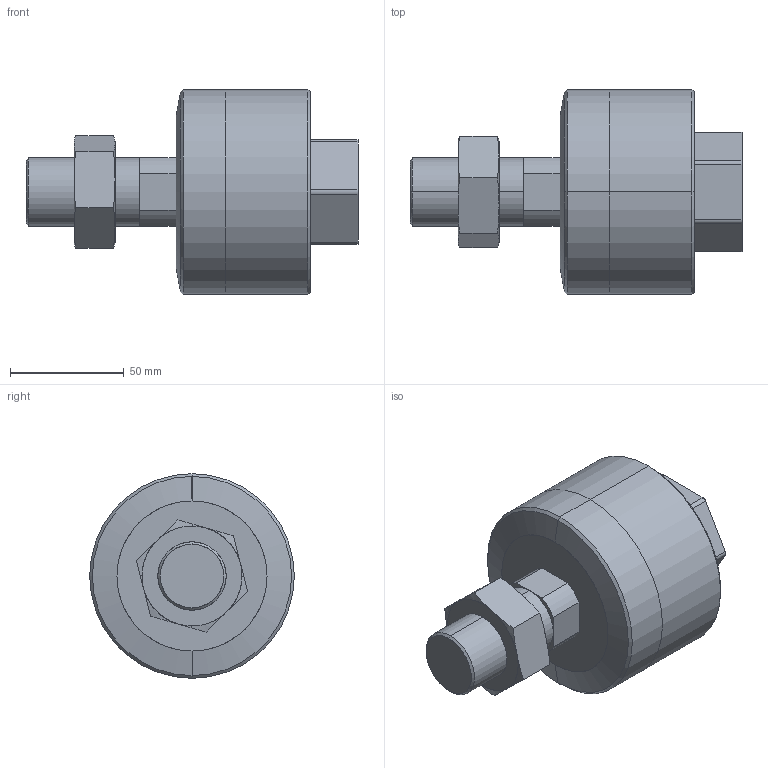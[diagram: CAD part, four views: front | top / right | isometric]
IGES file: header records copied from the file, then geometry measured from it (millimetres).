
Start section: SolidWorks IGES file using analytic representation for surfaces
Global section: file name: D:\MI\新增資料夾\FC\FCM30-1.5.IGS; native system: SolidWorks 2013; preprocessor: SolidWorks 2013; author: Sam Lin; date: 160323.114253; units: millimetre
Bounding box: 146 x 90 x 90 mm (x, y, z)
Surface area: 46760.7 mm2 (no closed solid volume)
Topology: 0 solids, 0 shells, 67 faces, 1086 edges, 1086 vertices
Faces by surface type: bspline 39, revolution 28
